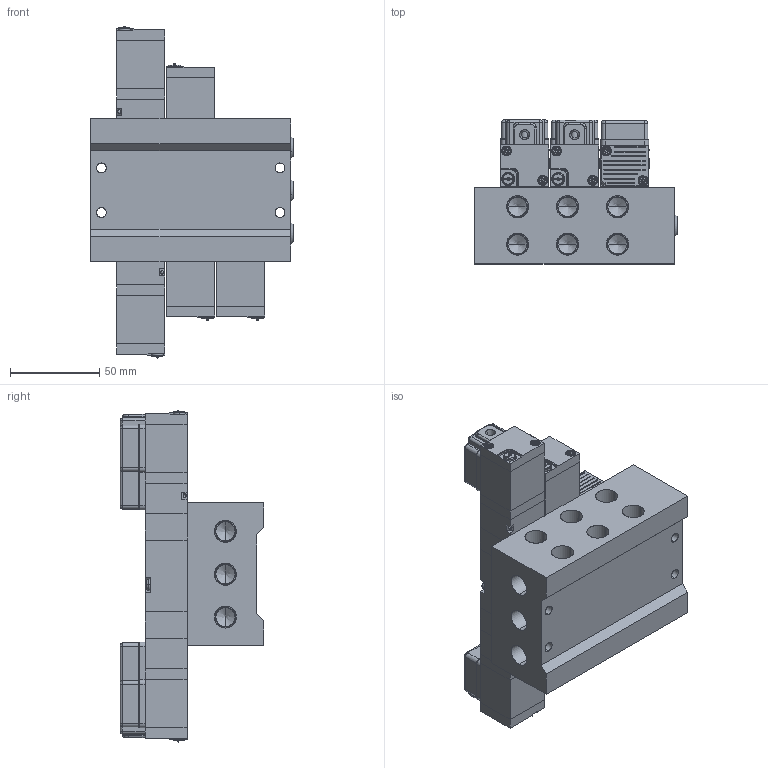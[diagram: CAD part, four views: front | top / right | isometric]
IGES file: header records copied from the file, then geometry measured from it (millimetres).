
Start section: SolidWorks IGES file using analytic representation for surfaces
Global section: file name: D:\Custom\3D繪製\PC\PC06\MFS#-PC06-02-G.IGS,1; native system: 5HSolidWorks 2014; preprocessor: SolidWorks 2014; author: Chieh_Lu; date: 150820.101351; units: millimetre
Bounding box: 113.51 x 80.5 x 185.95 mm (x, y, z)
Surface area: 143579.1 mm2 (no closed solid volume)
Topology: 0 solids, 0 shells, 1977 faces, 18019 edges, 17883 vertices
Faces by surface type: bspline 1189, revolution 788
